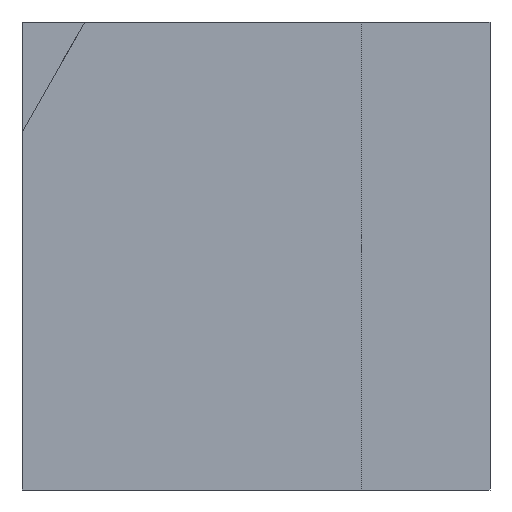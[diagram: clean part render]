
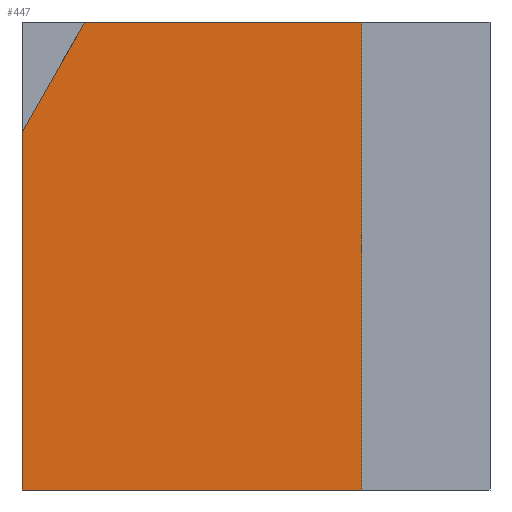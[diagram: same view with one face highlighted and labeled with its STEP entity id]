
A CAD part, left-side view. The second image highlights one B-rep face of the part: STEP entity #447.
In plain terms, the highlighted planar face has unit normal (-1, 0, 0).
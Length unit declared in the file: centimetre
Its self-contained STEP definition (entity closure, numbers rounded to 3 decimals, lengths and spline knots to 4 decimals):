
#12 = DIRECTION ( 'NONE',  ( 0., -0.493, 0.87 ) ) ;
#16 = AXIS2_PLACEMENT_3D ( 'NONE', #596, #148, #549 ) ;
#42 = EDGE_CURVE ( 'NONE', #424, #217, #61, .T. ) ;
#52 = EDGE_CURVE ( 'NONE', #98, #181, #167, .T. ) ;
#60 = DIRECTION ( 'NONE',  ( 0., -1., 0. ) ) ;
#61 = LINE ( 'NONE', #262, #170 ) ;
#81 = FACE_OUTER_BOUND ( 'NONE', #158, .T. ) ;
#82 = VERTEX_POINT ( 'NONE', #212 ) ;
#98 = VERTEX_POINT ( 'NONE', #313 ) ;
#100 = ORIENTED_EDGE ( 'NONE', *, *, #525, .F. ) ;
#106 = VECTOR ( 'NONE', #12, 100. ) ;
#114 = DIRECTION ( 'NONE',  ( 0., -1., 0. ) ) ;
#148 = DIRECTION ( 'NONE',  ( 1., 0., 0. ) ) ;
#149 = LINE ( 'NONE', #312, #623 ) ;
#158 = EDGE_LOOP ( 'NONE', ( #400, #545, #391, #631, #100 ) ) ;
#159 = CARTESIAN_POINT ( 'NONE',  ( 0., 866.0429, 1000. ) ) ;
#167 = LINE ( 'NONE', #159, #106 ) ;
#170 = VECTOR ( 'NONE', #114, 100. ) ;
#179 = LINE ( 'NONE', #572, #292 ) ;
#181 = VERTEX_POINT ( 'NONE', #356 ) ;
#212 = CARTESIAN_POINT ( 'NONE',  ( 0., 274.0901, 1000. ) ) ;
#214 = CARTESIAN_POINT ( 'NONE',  ( 0., 274.0901, 1000. ) ) ;
#217 = VERTEX_POINT ( 'NONE', #261 ) ;
#235 = EDGE_CURVE ( 'NONE', #181, #82, #149, .T. ) ;
#261 = CARTESIAN_POINT ( 'NONE',  ( 0., 274.0901, 0. ) ) ;
#262 = CARTESIAN_POINT ( 'NONE',  ( 0., 1000., 0. ) ) ;
#292 = VECTOR ( 'NONE', #570, 100. ) ;
#312 = CARTESIAN_POINT ( 'NONE',  ( 0., 1000., 1000. ) ) ;
#313 = CARTESIAN_POINT ( 'NONE',  ( 0., 1000., 763.484 ) ) ;
#356 = CARTESIAN_POINT ( 'NONE',  ( 0., 866.0429, 1000. ) ) ;
#391 = ORIENTED_EDGE ( 'NONE', *, *, #612, .T. ) ;
#400 = ORIENTED_EDGE ( 'NONE', *, *, #235, .F. ) ;
#424 = VERTEX_POINT ( 'NONE', #578 ) ;
#447 = ADVANCED_FACE ( 'NONE', ( #81 ), #633, .F. ) ;
#502 = LINE ( 'NONE', #214, #537 ) ;
#525 = EDGE_CURVE ( 'NONE', #82, #217, #502, .T. ) ;
#537 = VECTOR ( 'NONE', #551, 100. ) ;
#545 = ORIENTED_EDGE ( 'NONE', *, *, #52, .F. ) ;
#549 = DIRECTION ( 'NONE',  ( 0., 0., -1. ) ) ;
#551 = DIRECTION ( 'NONE',  ( 0., 0., -1. ) ) ;
#570 = DIRECTION ( 'NONE',  ( 0., 0., -1. ) ) ;
#572 = CARTESIAN_POINT ( 'NONE',  ( 0., 1000., 1000. ) ) ;
#578 = CARTESIAN_POINT ( 'NONE',  ( 0., 1000., 0. ) ) ;
#596 = CARTESIAN_POINT ( 'NONE',  ( 0., 1000., 1000. ) ) ;
#612 = EDGE_CURVE ( 'NONE', #98, #424, #179, .T. ) ;
#623 = VECTOR ( 'NONE', #60, 100. ) ;
#631 = ORIENTED_EDGE ( 'NONE', *, *, #42, .T. ) ;
#633 = PLANE ( 'NONE',  #16 ) ;
